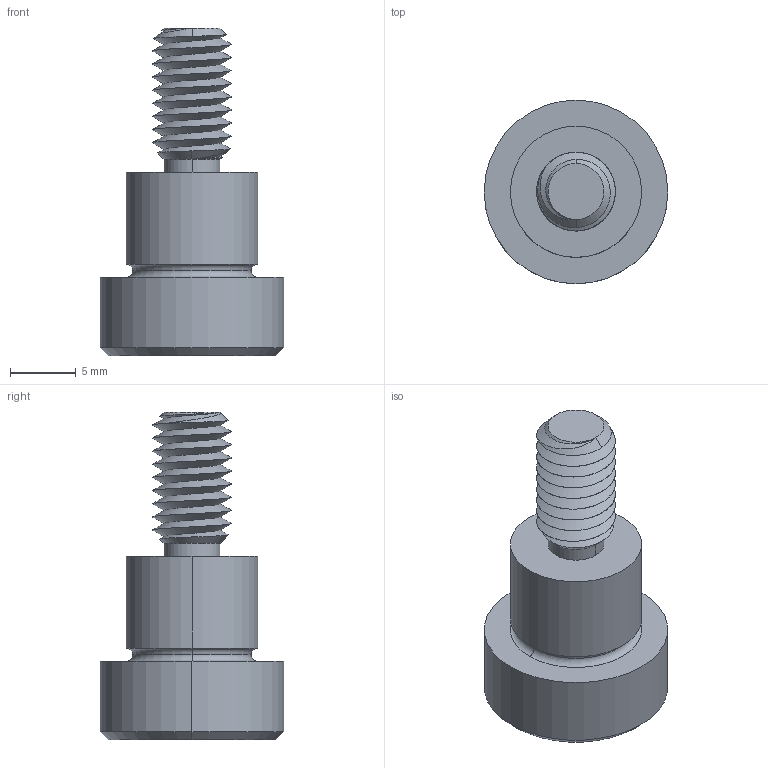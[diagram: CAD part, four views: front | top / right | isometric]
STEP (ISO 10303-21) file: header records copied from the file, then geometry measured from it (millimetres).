
FILE_DESCRIPTION (( 'STEP AP203' ), '1' );
FILE_NAME ('P0130.100-008-B6.step', '2021-11-09T21:47:09', ( '' ), ( '' ), 'SwSTEP 2.0', 'SolidWorks 2019', '' );
FILE_SCHEMA (( 'CONFIG_CONTROL_DESIGN' ));
Length unit declared in the file: millimetre
Products named in the file (1): P0130.100-008-B6
Bounding box: 14 x 14 x 25 mm (x, y, z)
Volume: 1692.7 mm3; surface area: 1201.9 mm2
Topology: 1 solids, 1 shells, 60 faces, 142 edges, 85 vertices
Faces by surface type: cylinder 24, plane 16, cone 14, torus 4, bspline 2
Entity records: 4245 total; most frequent: CARTESIAN_POINT 2899, ORIENTED_EDGE 280, DIRECTION 247, EDGE_CURVE 140, AXIS2_PLACEMENT_3D 99, VERTEX_POINT 85, EDGE_LOOP 63, ADVANCED_FACE 60
